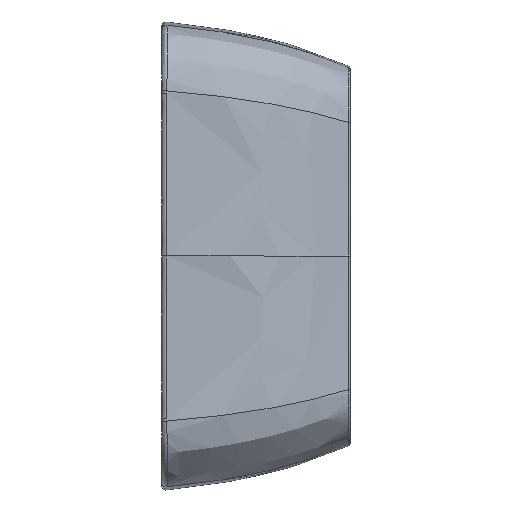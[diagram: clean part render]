
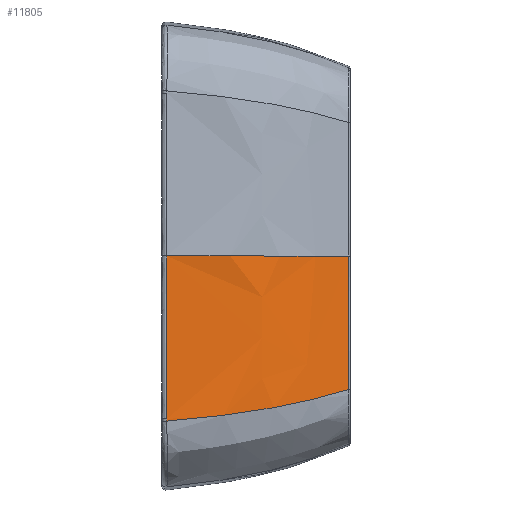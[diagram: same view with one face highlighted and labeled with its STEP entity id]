
A CAD part, left-side view. The second image highlights one B-rep face of the part: STEP entity #11805.
In plain terms, the highlighted free-form (B-spline) face has degree [3, 3] with [5, 7] control points.
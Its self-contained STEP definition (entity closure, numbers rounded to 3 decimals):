
#2828=CARTESIAN_POINT('',(-200.054,-123.912,
-243.292));
#2829=CARTESIAN_POINT('',(-200.243,-123.912,
-234.144));
#2830=CARTESIAN_POINT('',(-200.569,-123.913,
-215.426));
#2831=CARTESIAN_POINT('',(-200.888,-123.914,
-186.894));
#2832=CARTESIAN_POINT('',(-200.986,-123.914,
-165.875));
#2833=CARTESIAN_POINT('',(-200.995,-123.913,
-155.002));
#2835=CARTESIAN_POINT('',(-248.215,-3.481,-264.218));
#2836=CARTESIAN_POINT('',(-247.245,-13.453,
-263.446));
#2837=CARTESIAN_POINT('',(-244.28,-32.457,
-261.609));
#2838=CARTESIAN_POINT('',(-237.216,-58.029,
-258.163));
#2839=CARTESIAN_POINT('',(-227.6,-81.639,
-254.042));
#2840=CARTESIAN_POINT('',(-215.492,-103.476,
-249.234));
#2841=CARTESIAN_POINT('',(-205.512,-117.261,
-245.389));
#2842=CARTESIAN_POINT('',(-200.054,-123.912,
-243.292));
#2844=CARTESIAN_POINT('',(-248.215,-3.481,-264.218));
#2845=CARTESIAN_POINT('',(-248.223,-3.478,
-263.975));
#2846=CARTESIAN_POINT('',(-248.237,-3.472,
-263.486));
#2847=CARTESIAN_POINT('',(-248.251,-3.471,
-262.993));
#2848=CARTESIAN_POINT('',(-248.258,-3.471,
-262.745));
#2850=CARTESIAN_POINT('',(-248.258,-3.471,
-262.745));
#2851=CARTESIAN_POINT('',(-248.501,-3.477,
-253.979));
#2852=CARTESIAN_POINT('',(-248.938,-3.464,
-236.198));
#2853=CARTESIAN_POINT('',(-249.408,-3.478,
-209.404));
#2854=CARTESIAN_POINT('',(-249.699,-3.455,
-182.262));
#2855=CARTESIAN_POINT('',(-249.762,-3.476,
-164.118));
#2856=CARTESIAN_POINT('',(-249.763,-3.47,
-154.995));
#2878=CARTESIAN_POINT('',(-249.763,-3.47,
-154.995));
#2879=CARTESIAN_POINT('',(-248.753,-13.54,
-154.981));
#2880=CARTESIAN_POINT('',(-245.686,-32.683,
-154.965));
#2881=CARTESIAN_POINT('',(-238.464,-58.294,
-154.998));
#2882=CARTESIAN_POINT('',(-228.718,-81.838,
-155.008));
#2883=CARTESIAN_POINT('',(-216.517,-103.563,
-155.038));
#2884=CARTESIAN_POINT('',(-206.483,-117.287,
-155.018));
#2885=CARTESIAN_POINT('',(-200.995,-123.913,
-155.002));
#2887=CARTESIAN_POINT('',(-249.763,-3.47,
-154.995));
#3688=CARTESIAN_POINT('',(-200.054,-123.912,
-243.292));
#3700=CARTESIAN_POINT('',(-248.215,-3.481,-264.218));
#4020=VERTEX_POINT('',#2887);
#4056=VERTEX_POINT('',#3700);
#4058=VERTEX_POINT('',#2848);
#4082=VERTEX_POINT('',#3688);
#4084=VERTEX_POINT('',#2833);
#11758=CARTESIAN_POINT('',(-249.894,-2.136,
-153.897));
#11759=CARTESIAN_POINT('',(-249.895,-2.142,
-163.387));
#11760=CARTESIAN_POINT('',(-249.83,-2.153,
-181.898));
#11761=CARTESIAN_POINT('',(-249.537,-2.161,
-209.406));
#11762=CARTESIAN_POINT('',(-249.05,-2.159,
-237.055));
#11763=CARTESIAN_POINT('',(-248.588,-2.15,
-255.69));
#11764=CARTESIAN_POINT('',(-248.314,-2.142,
-265.311));
#11765=CARTESIAN_POINT('',(-247.734,-24.787,
-153.882));
#11766=CARTESIAN_POINT('',(-247.734,-24.793,
-163.368));
#11767=CARTESIAN_POINT('',(-247.667,-24.804,
-181.873));
#11768=CARTESIAN_POINT('',(-247.376,-24.812,
-209.373));
#11769=CARTESIAN_POINT('',(-246.897,-24.811,
-237.016));
#11770=CARTESIAN_POINT('',(-246.443,-24.802,
-255.648));
#11771=CARTESIAN_POINT('',(-246.174,-24.795,
-265.269));
#11772=CARTESIAN_POINT('',(-237.778,-68.462,
-153.854));
#11773=CARTESIAN_POINT('',(-237.775,-68.468,
-163.318));
#11774=CARTESIAN_POINT('',(-237.705,-68.478,
-181.782));
#11775=CARTESIAN_POINT('',(-237.42,-68.487,
-209.227));
#11776=CARTESIAN_POINT('',(-236.955,-68.489,
-236.816));
#11777=CARTESIAN_POINT('',(-236.517,-68.484,
-255.416));
#11778=CARTESIAN_POINT('',(-236.258,-68.478,
-265.021));
#11779=CARTESIAN_POINT('',(-215.242,-106.926,
-153.831));
#11780=CARTESIAN_POINT('',(-215.236,-106.93,
-163.242));
#11781=CARTESIAN_POINT('',(-215.163,-106.938,
-181.605));
#11782=CARTESIAN_POINT('',(-214.884,-106.95,
-208.904));
#11783=CARTESIAN_POINT('',(-214.434,-106.959,
-236.348));
#11784=CARTESIAN_POINT('',(-214.012,-106.962,
-254.854));
#11785=CARTESIAN_POINT('',(-213.763,-106.962,
-264.41));
#11786=CARTESIAN_POINT('',(-200.15,-124.928,
-153.822));
#11787=CARTESIAN_POINT('',(-200.143,-124.931,
-163.196));
#11788=CARTESIAN_POINT('',(-200.069,-124.938,
-181.49));
#11789=CARTESIAN_POINT('',(-199.793,-124.951,
-208.688));
#11790=CARTESIAN_POINT('',(-199.35,-124.965,
-236.032));
#11791=CARTESIAN_POINT('',(-198.937,-124.973,
-254.472));
#11792=CARTESIAN_POINT('',(-198.692,-124.976,
-263.995));
#11793=B_SPLINE_SURFACE_WITH_KNOTS('',3,3,((#11758,#11759,#11760,#11761,#11762,
#11763,#11764),(#11765,#11766,#11767,#11768,#11769,#11770,#11771),(#11772,
#11773,#11774,#11775,#11776,#11777,#11778),(#11779,#11780,#11781,#11782,#11783,
#11784,#11785),(#11786,#11787,#11788,#11789,#11790,#11791,#11792)),
.UNSPECIFIED.,.F.,.F.,.F.,(4,1,4),(4,1,1,1,4),(0.015,0.5,
0.999),(-0.01,0.252,0.501,
0.751,1.017),.UNSPECIFIED.);
#11795=ORIENTED_EDGE('',*,*,#11794,.F.);
#11797=ORIENTED_EDGE('',*,*,#11796,.F.);
#11799=ORIENTED_EDGE('',*,*,#11798,.T.);
#11800=ORIENTED_EDGE('',*,*,#11748,.T.);
#11802=ORIENTED_EDGE('',*,*,#11801,.T.);
#11803=EDGE_LOOP('',(#11795,#11797,#11799,#11800,#11802));
#11804=FACE_OUTER_BOUND('',#11803,.F.);
#11805=ADVANCED_FACE('',(#11804),#11793,.F.);
#2834=B_SPLINE_CURVE_WITH_KNOTS('',3,(#2828,#2829,#2830,#2831,#2832,#2833),
.UNSPECIFIED.,.F.,.F.,(4,1,1,4),(0.,0.333,0.667,1.),
.UNSPECIFIED.);
#2843=B_SPLINE_CURVE_WITH_KNOTS('',3,(#2835,#2836,#2837,#2838,#2839,#2840,#2841,
#2842),.UNSPECIFIED.,.F.,.F.,(4,1,1,1,1,4),(0.,0.2,0.4,0.6,0.8,1.),
.UNSPECIFIED.);
#2849=B_SPLINE_CURVE_WITH_KNOTS('',3,(#2844,#2845,#2846,#2847,#2848),
.UNSPECIFIED.,.F.,.F.,(4,1,4),(0.,0.5,1.),.UNSPECIFIED.);
#2857=B_SPLINE_CURVE_WITH_KNOTS('',3,(#2850,#2851,#2852,#2853,#2854,#2855,
#2856),.UNSPECIFIED.,.F.,.F.,(4,1,1,1,4),(0.,0.244,
0.495,0.747,1.),.UNSPECIFIED.);
#2886=B_SPLINE_CURVE_WITH_KNOTS('',3,(#2878,#2879,#2880,#2881,#2882,#2883,#2884,
#2885),.UNSPECIFIED.,.F.,.F.,(4,1,1,1,1,4),(0.,0.2,0.4,0.6,0.8,1.),
.UNSPECIFIED.);
#11748=EDGE_CURVE('',#4058,#4020,#2857,.T.);
#11794=EDGE_CURVE('',#4082,#4084,#2834,.T.);
#11796=EDGE_CURVE('',#4056,#4082,#2843,.T.);
#11798=EDGE_CURVE('',#4056,#4058,#2849,.T.);
#11801=EDGE_CURVE('',#4020,#4084,#2886,.T.);
